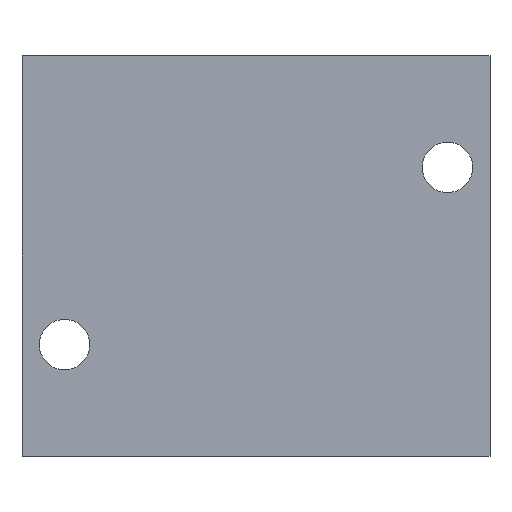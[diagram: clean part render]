
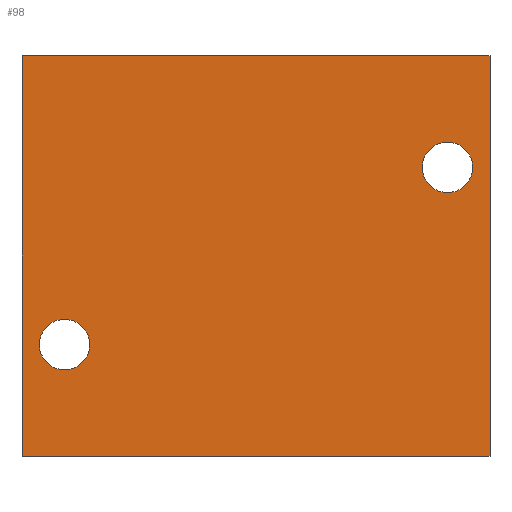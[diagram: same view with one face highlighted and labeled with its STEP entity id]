
A CAD part, front view. The second image highlights one B-rep face of the part: STEP entity #98.
In plain terms, the highlighted planar face has unit normal (0, -1, 0).
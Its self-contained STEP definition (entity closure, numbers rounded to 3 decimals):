
#7 = DIRECTION ( 'NONE',  ( 0., 0., 1. ) ) ;
#25 = ORIENTED_EDGE ( 'NONE', *, *, #1494, .T. ) ;
#48 = VERTEX_POINT ( 'NONE', #1412 ) ;
#90 = AXIS2_PLACEMENT_3D ( 'NONE', #1042, #553, #1211 ) ;
#98 = ADVANCED_FACE ( 'NONE', ( #479, #1942, #1787 ), #1963, .F. ) ;
#99 = CIRCLE ( 'NONE', #271, 7.125 ) ;
#147 = ORIENTED_EDGE ( 'NONE', *, *, #507, .F. ) ;
#153 = AXIS2_PLACEMENT_3D ( 'NONE', #1925, #466, #1775 ) ;
#169 = CARTESIAN_POINT ( 'NONE',  ( -66., -52.5, 56.5 ) ) ;
#179 = CARTESIAN_POINT ( 'NONE',  ( 54., -52.5, 17.875 ) ) ;
#212 = DIRECTION ( 'NONE',  ( 0., 0., -1. ) ) ;
#264 = EDGE_CURVE ( 'NONE', #48, #766, #774, .T. ) ;
#271 = AXIS2_PLACEMENT_3D ( 'NONE', #1256, #835, #279 ) ;
#279 = DIRECTION ( 'NONE',  ( 0., 0., -1. ) ) ;
#355 = AXIS2_PLACEMENT_3D ( 'NONE', #649, #1784, #1289 ) ;
#391 = LINE ( 'NONE', #1053, #1079 ) ;
#435 = CARTESIAN_POINT ( 'NONE',  ( -66., -52.5, 56.5 ) ) ;
#454 = EDGE_LOOP ( 'NONE', ( #1735, #637 ) ) ;
#455 = ORIENTED_EDGE ( 'NONE', *, *, #1024, .T. ) ;
#466 = DIRECTION ( 'NONE',  ( 0., -1., 0. ) ) ;
#479 = FACE_BOUND ( 'NONE', #1449, .T. ) ;
#492 = VERTEX_POINT ( 'NONE', #1673 ) ;
#507 = EDGE_CURVE ( 'NONE', #492, #2002, #1367, .T. ) ;
#553 = DIRECTION ( 'NONE',  ( 0., -1., 0. ) ) ;
#554 = VERTEX_POINT ( 'NONE', #2064 ) ;
#624 = VERTEX_POINT ( 'NONE', #792 ) ;
#637 = ORIENTED_EDGE ( 'NONE', *, *, #778, .F. ) ;
#649 = CARTESIAN_POINT ( 'NONE',  ( 54., -52.5, 25. ) ) ;
#686 = EDGE_CURVE ( 'NONE', #1070, #554, #1690, .T. ) ;
#766 = VERTEX_POINT ( 'NONE', #1319 ) ;
#772 = CIRCLE ( 'NONE', #153, 7.125 ) ;
#774 = CIRCLE ( 'NONE', #90, 7.125 ) ;
#778 = EDGE_CURVE ( 'NONE', #766, #48, #772, .T. ) ;
#792 = CARTESIAN_POINT ( 'NONE',  ( -66., -52.5, -56.5 ) ) ;
#835 = DIRECTION ( 'NONE',  ( 0., -1., 0. ) ) ;
#845 = DIRECTION ( 'NONE',  ( 1., 0., 0. ) ) ;
#857 = CARTESIAN_POINT ( 'NONE',  ( -66., -52.5, 56.5 ) ) ;
#938 = VECTOR ( 'NONE', #212, 1000. ) ;
#993 = EDGE_LOOP ( 'NONE', ( #25, #147, #1940, #455 ) ) ;
#1013 = DIRECTION ( 'NONE',  ( 1., 0., 0. ) ) ;
#1016 = CARTESIAN_POINT ( 'NONE',  ( 66., -52.5, 56.5 ) ) ;
#1024 = EDGE_CURVE ( 'NONE', #1169, #624, #1626, .T. ) ;
#1042 = CARTESIAN_POINT ( 'NONE',  ( -54., -52.5, -25. ) ) ;
#1051 = VECTOR ( 'NONE', #1312, 1000. ) ;
#1053 = CARTESIAN_POINT ( 'NONE',  ( -66., -52.5, 56.5 ) ) ;
#1070 = VERTEX_POINT ( 'NONE', #179 ) ;
#1079 = VECTOR ( 'NONE', #845, 1000. ) ;
#1121 = EDGE_CURVE ( 'NONE', #1169, #492, #391, .T. ) ;
#1169 = VERTEX_POINT ( 'NONE', #435 ) ;
#1211 = DIRECTION ( 'NONE',  ( 0., 0., -1. ) ) ;
#1232 = CARTESIAN_POINT ( 'NONE',  ( 66., -52.5, -56.5 ) ) ;
#1256 = CARTESIAN_POINT ( 'NONE',  ( 54., -52.5, 25. ) ) ;
#1257 = ORIENTED_EDGE ( 'NONE', *, *, #686, .F. ) ;
#1289 = DIRECTION ( 'NONE',  ( 0., 0., -1. ) ) ;
#1312 = DIRECTION ( 'NONE',  ( 0., 0., -1. ) ) ;
#1319 = CARTESIAN_POINT ( 'NONE',  ( -54., -52.5, -17.875 ) ) ;
#1354 = CARTESIAN_POINT ( 'NONE',  ( -66., -52.5, -56.5 ) ) ;
#1367 = LINE ( 'NONE', #1016, #938 ) ;
#1412 = CARTESIAN_POINT ( 'NONE',  ( -54., -52.5, -32.125 ) ) ;
#1449 = EDGE_LOOP ( 'NONE', ( #1257, #1952 ) ) ;
#1494 = EDGE_CURVE ( 'NONE', #624, #2002, #1984, .T. ) ;
#1626 = LINE ( 'NONE', #169, #1051 ) ;
#1647 = EDGE_CURVE ( 'NONE', #554, #1070, #99, .T. ) ;
#1657 = DIRECTION ( 'NONE',  ( 0., 1., 0. ) ) ;
#1673 = CARTESIAN_POINT ( 'NONE',  ( 66., -52.5, 56.5 ) ) ;
#1690 = CIRCLE ( 'NONE', #355, 7.125 ) ;
#1735 = ORIENTED_EDGE ( 'NONE', *, *, #264, .F. ) ;
#1775 = DIRECTION ( 'NONE',  ( 0., 0., -1. ) ) ;
#1784 = DIRECTION ( 'NONE',  ( 0., -1., 0. ) ) ;
#1787 = FACE_BOUND ( 'NONE', #454, .T. ) ;
#1925 = CARTESIAN_POINT ( 'NONE',  ( -54., -52.5, -25. ) ) ;
#1940 = ORIENTED_EDGE ( 'NONE', *, *, #1121, .F. ) ;
#1942 = FACE_OUTER_BOUND ( 'NONE', #993, .T. ) ;
#1952 = ORIENTED_EDGE ( 'NONE', *, *, #1647, .F. ) ;
#1963 = PLANE ( 'NONE',  #2025 ) ;
#1984 = LINE ( 'NONE', #1354, #2104 ) ;
#2002 = VERTEX_POINT ( 'NONE', #1232 ) ;
#2025 = AXIS2_PLACEMENT_3D ( 'NONE', #857, #1657, #7 ) ;
#2064 = CARTESIAN_POINT ( 'NONE',  ( 54., -52.5, 32.125 ) ) ;
#2104 = VECTOR ( 'NONE', #1013, 1000. ) ;
